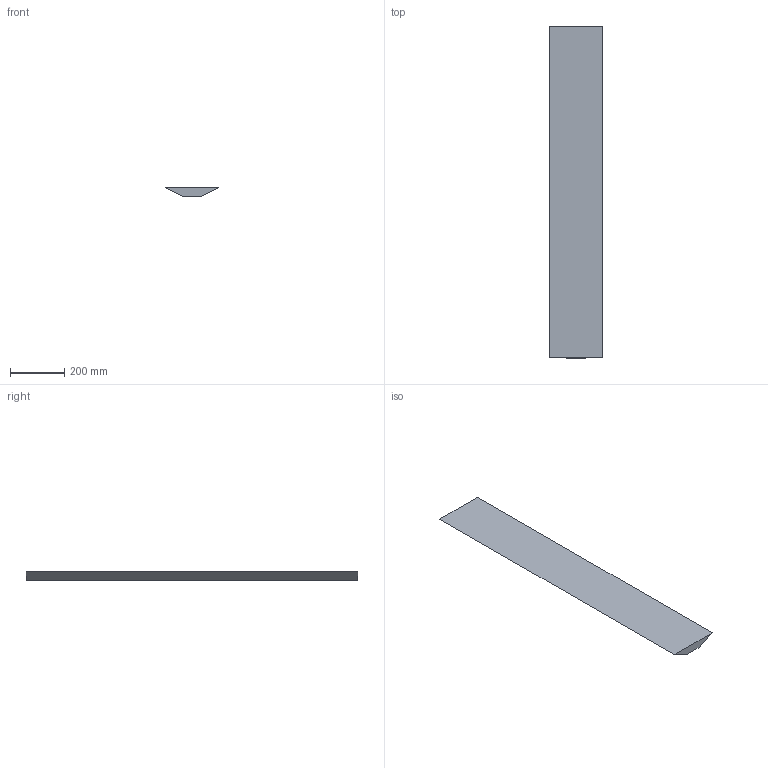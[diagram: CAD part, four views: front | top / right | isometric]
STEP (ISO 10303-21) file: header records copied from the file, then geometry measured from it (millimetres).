
FILE_DESCRIPTION (( 'STEP AP214' ), '1' );
FILE_NAME ('side wall inserts Website.STEP', '2020-06-16T23:15:44', ( '' ), ( '' ), 'SwSTEP 2.0', 'SolidWorks 2020', '' );
FILE_SCHEMA (( 'AUTOMOTIVE_DESIGN' ));
Length unit declared in the file: inch
Products named in the file (1): side wall inserts Website
Bounding box: 196.85 x 1219.2 x 31.75 mm (x, y, z)
Volume: 5161925.2 mm3; surface area: 506743 mm2
Topology: 1 solids, 1 shells, 6 faces, 12 edges, 8 vertices
Faces by surface type: plane 6
Entity records: 196 total; most frequent: CARTESIAN_POINT 27, DIRECTION 26, ORIENTED_EDGE 24, LINE 12, EDGE_CURVE 12, VECTOR 12, VERTEX_POINT 8, AXIS2_PLACEMENT_3D 7
